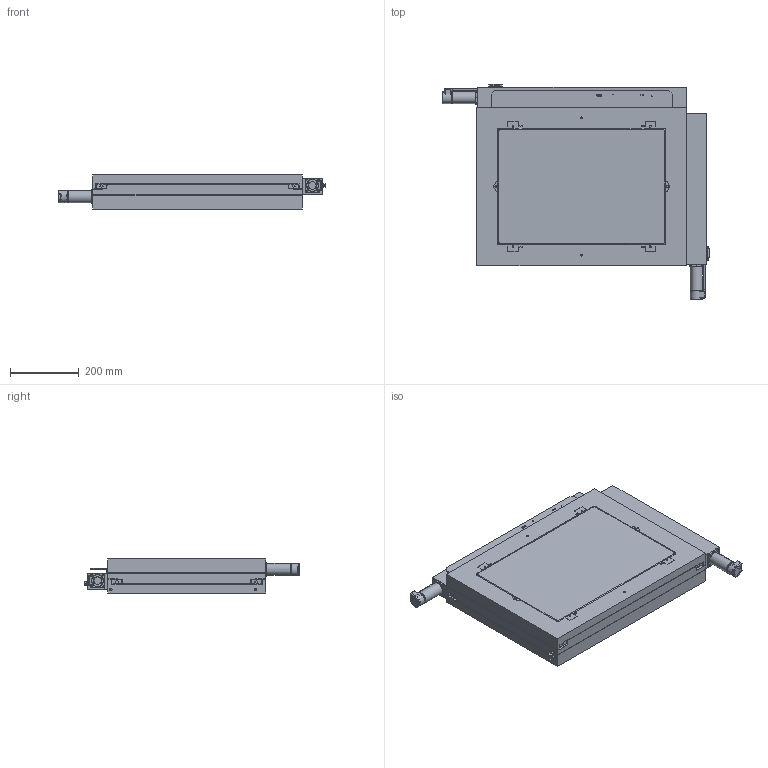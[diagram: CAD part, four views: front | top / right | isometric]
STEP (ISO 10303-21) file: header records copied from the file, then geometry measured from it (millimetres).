
FILE_DESCRIPTION(/* description */ (''),/* implementation_level */ '2;1');
FILE_NAME(/* name */ 'H:\Inventor\Katalog\3D-CAD-Modelle\STP neu\KT9-MGxx-CAD.stp',/* time_stamp */ '2024-01-16T09:06:53+01:00',/* author */ ('KON3'),/* organization */ (''),/* preprocessor_version */ 'ST-DEVELOPER v18',/* originating_system */ 'Autodesk Inventor 2020',/* authorisation */ '');
FILE_SCHEMA (('AUTOMOTIVE_DESIGN { 1 0 10303 214 3 1 1 }'));
Products named in the file (7): KT9-MGxx-CAD; KT9-Mxxx_unten; KT9-Mxxx_mitte; KT9-Mxxx_oben; KT9.84; M35-MAX-GD-Zubehoer_Shrinkwrap_1; M35-MAX-O-Zubehoer_Shrinkwrap_1
Assembly tree (8 placements, depth 2):
  KT9-MGxx-CAD
    KT9-Mxxx_unten
    KT9-Mxxx_mitte
    KT9-Mxxx_oben
    KT9.84
    M35-MAX-GD-Zubehoer_Shrinkwrap_1  x2
    M35-MAX-O-Zubehoer_Shrinkwrap_1  x2
Bounding box: 776.6 x 627.9 x 100 mm (x, y, z)
Volume: 25682386.5 mm3; surface area: 2777300.4 mm2
Topology: 91 solids, 91 shells, 3609 faces, 9577 edges, 6478 vertices
Faces by surface type: plane 1947, cylinder 1016, bspline 388, cone 206, torus 48, sphere 4
Full cylindrical faces by diameter (mm): 1 x60, 1.221 x4, 1.567 x16, 1.783 x8, 2 x8, 2.013 x32, 2.1 x2, 2.156 x4, 2.2 x8, 2.459 x12, 3 x20, 3.2 x20, 3.242 x4, 3.4 x2, 4 x2, 4.134 x63, 4.2 x10, 4.3 x16, 4.5 x7, 4.917 x100, 5 x8, 5.5 x16, 6 x4, 6.647 x4, 9.5 x100, 10 x8, 13 x10, 22 x2, 23 x2, 28.5 x2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
Entity records: 105120 total; most frequent: CARTESIAN_POINT 23858, ORIENTED_EDGE 16292, DIRECTION 15291, EDGE_CURVE 8146, VERTEX_POINT 5590, AXIS2_PLACEMENT_3D 5173, LINE 4945, VECTOR 4945
